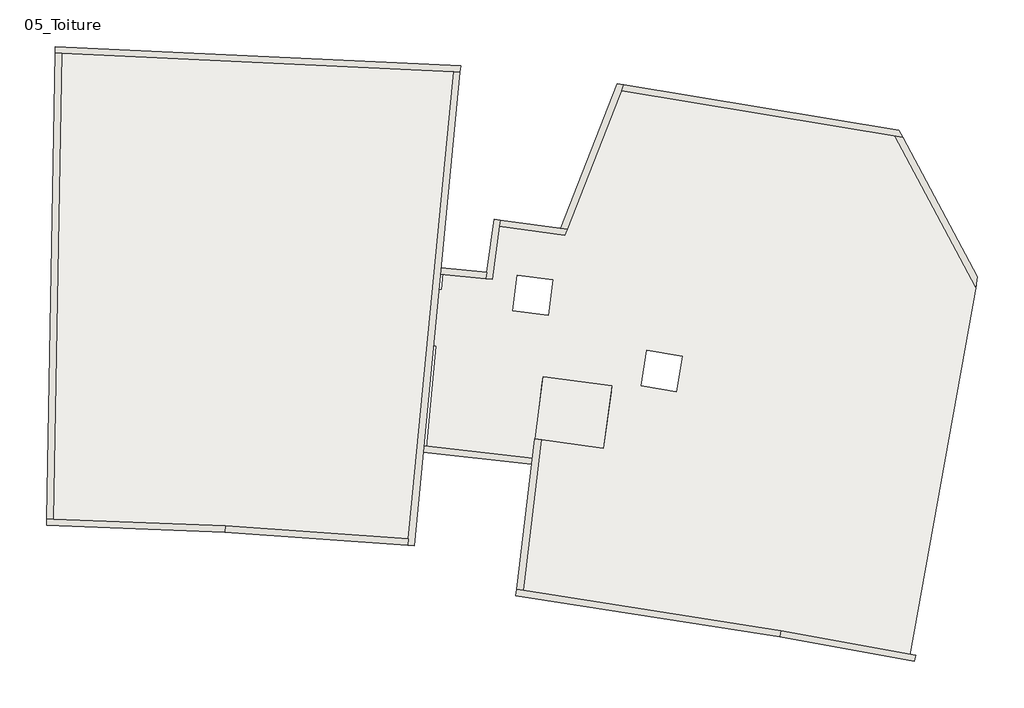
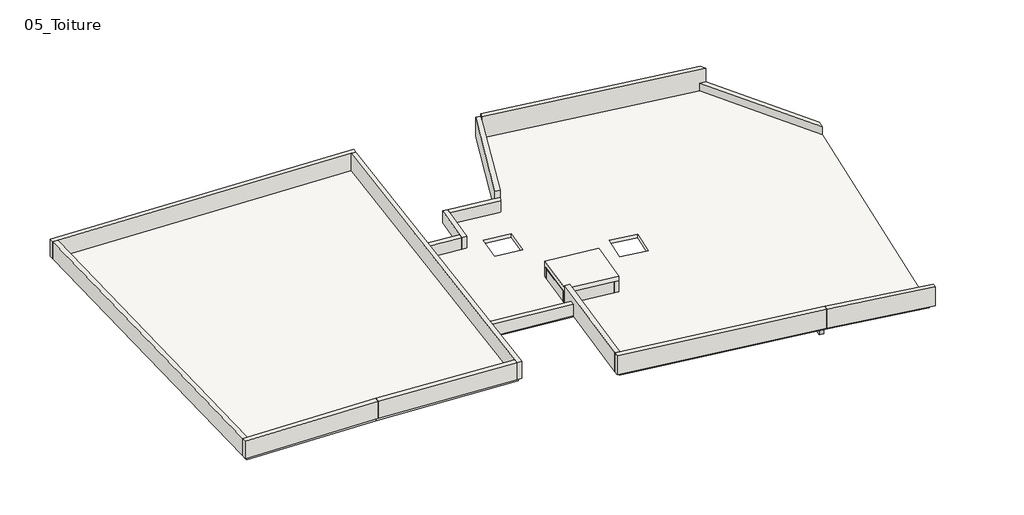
# One storey: 19 walls, 7 beams, 3 slabs.
"""IFC4 building model written with IfcOpenShell, lengths in millimetres."""

from ifc_helpers import new_model, si_unit, frame, origin, place, context, project, spatial, polyline, outline, extrude, faceted_brep, element, save

model = new_model("IFC4")

# Units and contexts
model_context = context("Model", 3, world=origin())
ifc_project = project(units=[si_unit("LENGTHUNIT", "METRE", prefix="MILLI")], contexts=[model_context])

# Site, building, storey
site = spatial("IfcSite", under=ifc_project)
building = spatial("IfcBuilding", under=site)
storey = spatial("IfcBuildingStorey", under=building, Name="05_Toiture", Elevation=32540.0)

# Beams
placement = place(None, origin())
element("IfcBeam", 1, ObjectType="Poutre_Rect_2013_JBE : 18x65ht", at=placement, inside=storey, context=model_context, shape_type="SweptSolid", body=[
    extrude(outline(polyline([(13612.6536437, 6080.9514615), (13584.8714068, 5903.1084202), (12695.6562007, 6042.0196048), (12723.4384376, 6219.862646), (13612.6536437, 6080.9514615)])), frame((0.0, 0.0, 31890.0), z_axis=(0.0, 0.0, 1.0), x_axis=(1.0, 0.0, 0.0)), (0.0, 0.0, 1.0), 490.0),
])
element("IfcBeam", 2, ObjectType="Poutre_Rect_2013_JBE : 18x65ht", at=placement, inside=storey, context=model_context, shape_type="SweptSolid", body=[
    extrude(outline(polyline([(16504.833415, 113.3973246), (16682.2953299, 83.2764225), (16525.2369714, -842.0569861), (16347.7750564, -811.9360839), (16504.833415, 113.3973246)])), frame((0.0, 0.0, 31890.0), z_axis=(0.0, 0.0, 1.0), x_axis=(1.0, 0.0, 0.0)), (0.0, 0.0, 1.0), 490.0),
])
element("IfcBeam", 3, ObjectType="Poutre_Rect_2013_JBE : 18x65ht", at=placement, inside=storey, context=model_context, shape_type="Brep", body=[
    faceted_brep([(17191.4038309, 3082.7422071, 31890.0), (17013.941916, 3112.8631093, 31890.0), (17013.941916, 3112.8631093, 32380.0), (17191.4038309, 3082.7422071, 32380.0), (16857.4805631, 2191.0470511, 32380.0), (16857.4805631, 2191.0470511, 31890.0), (16858.1977107, 2190.9253285, 31890.0), (16858.1977107, 2190.9253285, 32340.0), (17034.942478, 2160.9261489, 32340.0), (17034.942478, 2160.9261489, 32380.0), (17043.7539995, 2212.8405794, 32340.0), (17043.7539995, 2212.8405794, 31890.0), (16867.0092322, 2242.8397589, 31890.0), (16867.0092322, 2242.8397589, 32340.0)], [[[0, 1, 2, 3]], [[4, 5, 6, 7, 8, 9]], [[0, 3, 9, 8, 10, 11]], [[1, 0, 11, 12, 6, 5]], [[1, 5, 4, 2]], [[3, 2, 4, 9]], [[12, 13, 7, 6]], [[13, 12, 11, 10]], [[7, 13, 10, 8]]]),
])
element("IfcBeam", 4, ObjectType="Poutre_Rect_2013_JBE : 18x65ht", at=placement, inside=storey, context=model_context, shape_type="Brep", body=[
    faceted_brep([(8395.0423714, 8450.0283882, 32380.0), (8370.7462372, 8271.6756538, 32380.0), (8370.7462372, 8271.6756538, 32340.0), (8395.0423714, 8450.0283882, 32340.0), (7477.3559891, 8575.0403853, 31890.0), (7453.0598549, 8396.6876509, 31890.0), (7453.0598549, 8396.6876509, 32340.0), (7453.0598549, 8396.6876509, 32380.0), (7477.3559891, 8575.0403853, 32380.0), (7477.3559891, 8575.0403853, 32340.0), (8352.5369375, 8274.156219, 31890.0), (8352.5369375, 8274.156219, 32340.0), (8376.8330718, 8452.5089534, 31890.0), (8376.8330718, 8452.5089534, 32340.0)], [[[0, 1, 2, 3]], [[4, 5, 6, 7, 8, 9]], [[1, 7, 6, 5, 10, 11, 2]], [[5, 4, 12, 10]], [[8, 0, 3, 13, 12, 4, 9]], [[1, 0, 8, 7]], [[13, 11, 10, 12]], [[11, 13, 3, 2]]]),
])
element("IfcBeam", 5, ObjectType="Poutre_Rect_2013_JBE : 20x50ht", at=placement, inside=storey, context=model_context, shape_type="SweptSolid", body=[
    extrude(outline(polyline([(11919.3273248, 3795.9998695), (12116.9217401, 3765.0733915), (11554.0598413, 168.8550329), (11356.465426, 199.7815108), (11919.3273248, 3795.9998695)])), frame((0.0, 0.0, 32040.0), z_axis=(0.0, 0.0, 1.0), x_axis=(1.0, 0.0, 0.0)), (0.0, 0.0, 1.0), 340.0),
])
element("IfcBeam", 6, ObjectType="Poutre_Rect_2013_JBE : 20x50ht", at=placement, inside=storey, context=model_context, shape_type="Brep", body=[
    faceted_brep([(11995.3620915, 4287.4869447, 32040.0), (12192.9654707, 4256.6177926, 32040.0), (12192.9654707, 4256.6177926, 32380.0), (11995.3620915, 4287.4869447, 32380.0), (12477.4316033, 6077.5770742, 32040.0), (12477.4316033, 6077.5770742, 32340.0), (12491.323021, 6166.5005104, 32340.0), (12491.323021, 6166.5005104, 32380.0), (12280.0308482, 6109.7432882, 32040.0), (12293.9222659, 6198.6667244, 32380.0), (12293.9222659, 6198.6667244, 32340.0), (12280.0308482, 6109.7432882, 32340.0)], [[[0, 1, 2, 3]], [[2, 1, 4, 5, 6, 7]], [[1, 0, 8, 4]], [[0, 3, 9, 10, 11, 8]], [[9, 7, 6, 10]], [[3, 2, 7, 9]], [[11, 5, 4, 8]], [[5, 11, 10, 6]]]),
])
element("IfcBeam", 7, ObjectType="Poutre_Rect_2013_JBE : 20x60ht", at=placement, inside=storey, context=model_context, shape_type="Brep", body=[
    faceted_brep([(8995.3122642, 4951.0890921, 31940.0), (9211.2722782, 6536.4274246, 31940.0), (9211.2722782, 6536.4274246, 32380.0), (9211.2722782, 6536.4274246, 32540.0), (8995.3122642, 4951.0890921, 32540.0), (8995.3122642, 4951.0890921, 32380.0), (9013.1026309, 6563.423552, 31940.0), (8797.1426169, 4978.0852195, 31940.0), (8797.1426169, 4978.0852195, 32380.0), (9013.1026309, 6563.423552, 32380.0), (9105.8657953, 6550.7866712, 32540.0), (8911.89461, 4962.4528587, 32540.0), (9105.8657953, 6550.7866712, 32380.0), (8911.89461, 4962.4528587, 32380.0)], [[[0, 1, 2, 3, 4, 5]], [[6, 1, 0, 7]], [[6, 7, 8, 9]], [[4, 3, 10, 11]], [[1, 6, 9, 12, 10, 3, 2]], [[7, 0, 5, 4, 11, 13, 8]], [[13, 12, 9, 8]], [[12, 13, 11, 10]]]),
])

# Slabs
element("IfcSlab", 8, ObjectType="Dalle Béton - 20 cm", at=placement, inside=storey, context=model_context, shape_type="Brep", body=[
    faceted_brep([(-6131.7558603, 16913.0475781, 32340.0), (6293.3492324, 16310.5254411, 32340.0), (5630.8498129, 9483.9009054, 32340.0), (5461.3375455, 7737.1875208, 32340.0), (4868.8620342, 1632.1137002, 32340.0), (-989.3574264, 2051.1764357, 32340.0), (-6400.6245149, 2262.9052429, 32340.0), (-6131.7558603, 16913.0475781, 32540.0), (-6400.6245149, 2262.9052429, 32540.0), (-989.3574264, 2051.1764357, 32540.0), (4868.8620342, 1632.1137002, 32540.0), (5630.3902791, 9479.165709, 32540.0), (5630.8498129, 9483.9009054, 32540.0), (6293.3492324, 16310.5254411, 32540.0)], [[[0, 1, 2, 3, 4, 5, 6]], [[7, 8, 9, 10, 11, 12, 13]], [[1, 0, 7, 13]], [[4, 3, 2, 1, 13, 12, 11, 10]], [[5, 4, 10, 9]], [[0, 6, 8, 7]], [[6, 5, 9, 8]]]),
])
element("IfcSlab", 9, ObjectType="Dalle Béton - 16cm", at=placement, inside=storey, context=model_context, shape_type="Brep", body=[
    faceted_brep([(5618.5068655, 7700.2736905, 32380.0), (5445.6726505, 7716.1909119, 32380.0), (5608.1611372, 9480.5421985, 32380.0), (5630.3902791, 9479.165709, 32380.0), (5764.9739737, 9470.8319175, 32380.0), (5786.3138332, 9469.5104949, 32380.0), (5835.8039031, 9981.3682771, 32380.0), (7347.3343929, 9835.2227026, 32380.0), (7571.2608379, 11469.8085142, 32380.0), (9589.5784695, 11193.3135826, 32380.0), (11375.9056437, 15723.8760304, 32380.0), (19957.6989971, 14315.5085337, 32380.0), (22477.3801138, 9612.7956209, 32380.0), (20405.8907762, -1949.1198391, 32380.0), (16369.3755359, -1225.918021, 32380.0), (8278.3152724, 43.021616, 32380.0), (8774.1826975, 4141.385447, 32380.0), (5311.2130751, 4533.8115508, 32380.0), (10680.4511709, 4721.5270717, 32380.0), (10896.4175055, 6306.8645431, 32380.0), (9105.8657953, 6550.7866712, 32380.0), (8911.89461, 4962.4528587, 32380.0), (7997.5075875, 8814.1933432, 32380.0), (9107.2813466, 8663.1894931, 32380.0), (9258.2849465, 9772.9628839, 32380.0), (8148.5114332, 9923.9670703, 32380.0), (13299.1487, 7389.1943207, 32380.0), (12194.4071254, 7573.4391827, 32380.0), (12010.162262, 6468.6975998, 32380.0), (13114.9037051, 6284.4523056, 32380.0), (5618.5068655, 7700.2736905, 32540.0), (5311.2130751, 4533.8115508, 32540.0), (8774.1826975, 4141.385447, 32540.0), (8278.3152724, 43.021616, 32540.0), (16369.3755359, -1225.918021, 32540.0), (20405.8907762, -1949.1198391, 32540.0), (22477.3801138, 9612.7956209, 32540.0), (19957.6989971, 14315.5085337, 32540.0), (11375.9056437, 15723.8760304, 32540.0), (9589.5784695, 11193.3135826, 32540.0), (7571.2608379, 11469.8085142, 32540.0), (7347.3343929, 9835.2227026, 32540.0), (5835.8039031, 9981.3682771, 32540.0), (5786.3138332, 9469.5104949, 32540.0), (5764.9739737, 9470.8319175, 32540.0), (5630.3902791, 9479.165709, 32540.0), (5608.1611372, 9480.5421985, 32540.0), (5445.6726505, 7716.1909119, 32540.0), (7997.5075875, 8814.1933432, 32540.0), (8148.5114332, 9923.9670703, 32540.0), (9258.2849465, 9772.9628839, 32540.0), (9107.2813466, 8663.1894931, 32540.0), (13299.1487, 7389.1943207, 32540.0), (13114.9037051, 6284.4523056, 32540.0), (12010.162262, 6468.6975998, 32540.0), (12194.4071254, 7573.4391827, 32540.0), (10680.4511709, 4721.5270717, 32540.0), (8995.3122642, 4951.0890921, 32540.0), (8911.89461, 4962.4528587, 32540.0), (9105.8657953, 6550.7866712, 32540.0), (9211.2722782, 6536.4274246, 32540.0), (10896.4175055, 6306.8645431, 32540.0)], [[[0, 1, 2, 3, 4, 5, 6, 7, 8, 9, 10, 11, 12, 13, 14, 15, 16, 17], [18, 19, 20, 21], [22, 23, 24, 25], [26, 27, 28, 29]], [[30, 31, 32, 33, 34, 35, 36, 37, 38, 39, 40, 41, 42, 43, 44, 45, 46, 47], [48, 49, 50, 51], [52, 53, 54, 55], [56, 57, 58, 59, 60, 61]], [[7, 6, 42, 41]], [[8, 7, 41, 40]], [[9, 8, 40, 39]], [[10, 9, 39, 38]], [[11, 10, 38, 37]], [[12, 11, 37, 36]], [[13, 12, 36, 35]], [[15, 14, 34, 33]], [[16, 15, 33, 32]], [[17, 16, 32, 31]], [[0, 17, 31, 30]], [[19, 18, 56, 61]], [[20, 19, 61, 60, 59]], [[21, 20, 59, 58]], [[18, 21, 58, 57, 56]], [[23, 22, 48, 51]], [[24, 23, 51, 50]], [[25, 24, 50, 49]], [[22, 25, 49, 48]], [[27, 26, 52, 55]], [[28, 27, 55, 54]], [[29, 28, 54, 53]], [[26, 29, 53, 52]], [[1, 0, 30, 47]], [[2, 1, 47, 46]], [[5, 4, 3, 2, 46, 45, 44, 43]], [[6, 5, 43, 42]], [[14, 13, 35, 34]]]),
])
element("IfcSlab", 10, ObjectType="Dalle Béton - 25 cm", at=placement, inside=storey, context=model_context, shape_type="SweptSolid", body=[
    extrude(outline(polyline([(11099.0665343, 6460.9207339), (10834.5073639, 4518.8780585), (8711.6977933, 4808.0626095), (8949.0182707, 6753.8159377), (11099.0665343, 6460.9207339)])), frame((0.0, 0.0, 32990.0), z_axis=(0.0, 0.0, 1.0), x_axis=(1.0, 0.0, 0.0)), (0.0, 0.0, 1.0), 250.0),
])

# Walls
element("IfcWall", 11, ObjectType="Voile BA 18", at=placement, inside=storey, context=model_context, shape_type="Brep", body=[
    faceted_brep([(8927.4959479, 6575.0855242, 32540.0), (9105.8657953, 6550.7866712, 32540.0), (10896.4175055, 6306.8645431, 32540.0), (11074.7701881, 6282.5680285, 32540.0), (11074.7701881, 6282.5680285, 33040.0), (10896.4175055, 6306.8645431, 33040.0), (9105.8657953, 6550.7866712, 33040.0), (8927.4959479, 6575.0855242, 33040.0), (8949.3179776, 6753.7752993, 32540.0), (8949.3179776, 6753.7752993, 33040.0), (11099.0667028, 6460.920711, 33040.0), (11099.0667028, 6460.920711, 32540.0)], [[[0, 1, 2, 3, 4, 5, 6, 7]], [[8, 9, 10, 11]], [[3, 2, 1, 0, 8, 11]], [[7, 6, 5, 4, 10, 9]], [[4, 3, 11, 10]], [[0, 7, 9, 8]]]),
])
element("IfcWall", 12, ObjectType="Voile BA 18", at=placement, inside=storey, context=model_context, shape_type="Brep", body=[
    faceted_brep([(10896.4175055, 6306.8645431, 32540.0), (10680.4511709, 4721.5270717, 32540.0), (10656.1546562, 4543.1743891, 32540.0), (10656.1546562, 4543.1743891, 33040.0), (10680.4511709, 4721.5270717, 33040.0), (10896.4175055, 6306.8645431, 33040.0), (11074.7701881, 6282.5680285, 32540.0), (11074.7701881, 6282.5680285, 33040.0), (10834.5073388, 4518.8778745, 33040.0), (10834.5073388, 4518.8778745, 32540.0)], [[[0, 1, 2, 3, 4, 5]], [[6, 7, 8, 9]], [[2, 1, 0, 6, 9]], [[5, 4, 3, 8, 7]], [[0, 5, 7, 6]], [[3, 2, 9, 8]]]),
])
element("IfcWall", 13, ObjectType="Voile BA 18", at=placement, inside=storey, context=model_context, shape_type="Brep", body=[
    faceted_brep([(10680.4511709, 4721.5270717, 32540.0), (8911.89461, 4962.4528587, 32540.0), (8733.5247626, 4986.7517117, 32540.0), (8733.5247626, 4986.7517117, 33040.0), (8911.89461, 4962.4528587, 33040.0), (10680.4511709, 4721.5270717, 33040.0), (10656.1546562, 4543.1743891, 32540.0), (10656.1546562, 4543.1743891, 33040.0), (8711.702733, 4808.0619366, 33040.0), (8711.702733, 4808.0619366, 32540.0), (8892.1622415, 4783.4784146, 32540.0)], [[[0, 1, 2, 3, 4, 5]], [[6, 7, 8, 9, 10]], [[2, 1, 0, 6, 10, 9]], [[5, 4, 3, 8, 7]], [[0, 5, 7, 6]], [[3, 2, 9, 8]]]),
])
element("IfcWall", 14, ObjectType="Voile BA 18", at=placement, inside=storey, context=model_context, shape_type="SweptSolid", body=[
    extrude(outline(polyline([(9105.8657953, 6550.7866712), (8911.89461, 4962.4528587), (8733.5247626, 4986.7517117), (8927.4959479, 6575.0855242), (9105.8657953, 6550.7866712)])), frame((0.0, 0.0, 32540.0), z_axis=(0.0, 0.0, 1.0), x_axis=(1.0, 0.0, 0.0)), (0.0, 0.0, 1.0), 500.0),
])
element("IfcWall", 15, ObjectType="Voile BA 20", at=placement, inside=storey, context=model_context, shape_type="Brep", body=[
    faceted_brep([(-6292.646944, 16865.9622056, 32540.0), (-6092.7866828, 16856.5129953, 32540.0), (6153.5993944, 16277.5150672, 32540.0), (6353.6212346, 16268.0582176, 32540.0), (6353.6212346, 16268.0582176, 33320.0), (6153.5993944, 16277.5150672, 33320.0), (-6092.7866828, 16856.5129953, 33320.0), (-6292.646944, 16865.9622056, 33320.0), (-6288.9755034, 17066.0120297, 32540.0), (-6288.9755034, 17066.0120297, 33320.0), (6372.9634506, 16467.3671417, 33320.0), (6372.9634506, 16467.3671417, 32540.0)], [[[0, 1, 2, 3, 4, 5, 6, 7]], [[8, 9, 10, 11]], [[3, 2, 1, 0, 8, 11]], [[7, 6, 5, 4, 10, 9]], [[4, 3, 11, 10]], [[0, 7, 9, 8]]]),
])
element("IfcWall", 16, ObjectType="Voile BA 20", at=placement, inside=storey, context=model_context, shape_type="Brep", body=[
    faceted_brep([(6153.5993944, 16277.5150672, 32540.0), (4737.1220666, 1681.6398185, 32540.0), (4717.7973423, 1482.5111357, 32540.0), (4717.7973423, 1482.5111357, 33320.0), (4737.1220666, 1681.6398185, 33320.0), (6153.5993944, 16277.5150672, 33320.0), (6353.6212346, 16268.0582176, 32540.0), (6353.6212346, 16268.0582176, 33320.0), (4917.3516038, 1468.2361918, 33320.0), (4917.3516038, 1468.2361918, 32540.0), (5201.5003678, 4396.2039261, 32540.0), (5220.8214802, 4595.2953906, 32540.0), (5740.6500425, 9951.7897707, 32540.0), (5759.9685842, 10150.8547464, 32540.0)], [[[0, 1, 2, 3, 4, 5]], [[6, 7, 8, 9, 10, 11, 12, 13]], [[2, 1, 0, 6, 13, 12, 11, 10, 9]], [[5, 4, 3, 8, 7]], [[0, 5, 7, 6]], [[3, 2, 9, 8]]]),
])
element("IfcWall", 17, ObjectType="Voile BA 20", at=placement, inside=storey, context=model_context, shape_type="SweptSolid", body=[
    extrude(outline(polyline([(-987.1478639, 2091.1205886), (4737.1220666, 1681.6398185), (4717.7973423, 1482.5111357), (-998.1956765, 1891.399824), (-987.1478639, 2091.1205886)])), frame((0.0, 0.0, 32540.0), z_axis=(0.0, 0.0, 1.0), x_axis=(1.0, 0.0, 0.0)), (0.0, 0.0, 1.0), 780.0),
])
element("IfcWall", 18, ObjectType="Voile BA 20", at=placement, inside=storey, context=model_context, shape_type="Brep", body=[
    faceted_brep([(-987.1478639, 2091.1205886, 32540.0), (-6359.9123472, 2301.342889, 32540.0), (-6559.802487, 2309.1640703, 32540.0), (-6559.802487, 2309.1640703, 33320.0), (-6359.9123472, 2301.342889, 33320.0), (-987.1478639, 2091.1205886, 33320.0), (-998.1956765, 1891.399824, 32540.0), (-998.1956765, 1891.399824, 33320.0), (-6563.4731859, 2109.1546584, 33320.0), (-6563.4731859, 2109.1546584, 32540.0)], [[[0, 1, 2, 3, 4, 5]], [[6, 7, 8, 9]], [[2, 1, 0, 6, 9]], [[5, 4, 3, 8, 7]], [[0, 5, 7, 6]], [[3, 2, 9, 8]]]),
])
element("IfcWall", 19, ObjectType="Voile BA 20", at=placement, inside=storey, context=model_context, shape_type="SweptSolid", body=[
    extrude(outline(polyline([(-6092.7866828, 16856.5129953), (-6359.9123472, 2301.342889), (-6559.802487, 2309.1640703), (-6292.646944, 16865.9622056), (-6092.7866828, 16856.5129953)])), frame((0.0, 0.0, 32540.0), z_axis=(0.0, 0.0, 1.0), x_axis=(1.0, 0.0, 0.0)), (0.0, 0.0, 1.0), 780.0),
])
element("IfcWall", 20, ObjectType="Voile BA 20", at=placement, inside=storey, context=model_context, shape_type="Brep", body=[
    faceted_brep([(7361.6769034, 9792.3011549, 32540.0), (7588.3748042, 11447.2651549, 32540.0), (7615.5174524, 11645.4147868, 32540.0), (7615.5174524, 11645.4147868, 33070.0), (7588.3748042, 11447.2651549, 33070.0), (7361.6769034, 9792.3011549, 33070.0), (7162.4936806, 9811.898274, 32540.0), (7162.4936806, 9811.898274, 33070.0), (7189.6560012, 10010.1915207, 33070.0), (7417.3678084, 11672.5573469, 33070.0), (7417.3678084, 11672.5573469, 32540.0), (7189.6560012, 10010.1915207, 32540.0)], [[[0, 1, 2, 3, 4, 5]], [[6, 7, 8, 9, 10, 11]], [[2, 1, 0, 6, 11, 10]], [[5, 4, 3, 9, 8, 7]], [[3, 2, 10, 9]], [[0, 5, 7, 6]]]),
])
element("IfcWall", 21, ObjectType="Voile BA 20", at=placement, inside=storey, context=model_context, shape_type="Brep", body=[
    faceted_brep([(7588.3748042, 11447.2651549, 32540.0), (9622.8226926, 11168.5862594, 32540.0), (9622.8226926, 11168.5862594, 33070.0), (7588.3748042, 11447.2651549, 33070.0), (7615.5174524, 11645.4147868, 32540.0), (7615.5174524, 11645.4147868, 33070.0), (9698.337473, 11360.1098713, 33070.0), (9698.337473, 11360.1098713, 32540.0), (9494.3689629, 11388.0495003, 32540.0)], [[[0, 1, 2, 3]], [[4, 5, 6, 7, 8]], [[1, 0, 4, 8, 7]], [[3, 2, 6, 5]], [[0, 3, 5, 4]], [[2, 1, 7, 6]]]),
])
element("IfcWall", 22, ObjectType="Voile BA 20", at=placement, inside=storey, context=model_context, shape_type="Brep", body=[
    faceted_brep([(9698.337473, 11360.1098713, 32540.0), (11401.2801274, 15679.1812653, 32540.0), (11476.3308846, 15869.5280027, 32540.0), (11476.3308846, 15869.5280027, 33400.0), (9698.337473, 11360.1098713, 33400.0), (9698.337473, 11360.1098713, 33070.0), (9494.3689629, 11388.0495003, 32540.0), (9494.3689629, 11388.0495003, 33400.0), (11274.432648, 15902.7183425, 33400.0), (11274.432648, 15902.7183425, 32540.0)], [[[0, 1, 2, 3, 4, 5]], [[6, 7, 8, 9]], [[2, 1, 0, 6, 9]], [[4, 3, 8, 7]], [[0, 5, 4, 7, 6]], [[3, 2, 9, 8]]]),
])
element("IfcWall", 23, ObjectType="Voile BA 20", at=placement, inside=storey, context=model_context, shape_type="Brep", body=[
    faceted_brep([(11401.2801274, 15679.1812653, 32540.0), (19933.1527576, 14276.6145259, 32540.0), (20181.924837, 14235.7185281, 32540.0), (20181.924837, 14235.7185281, 32900.0), (20181.924837, 14235.7185281, 33500.0), (11401.2801274, 15679.1812653, 33500.0), (11476.3308846, 15869.5280027, 32540.0), (11476.3308846, 15869.5280027, 33400.0), (11476.3308846, 15869.5280027, 33500.0), (20062.9078233, 14457.9683438, 33500.0), (20062.9078233, 14457.9683438, 32540.0)], [[[0, 1, 2, 3, 4, 5]], [[6, 7, 8, 9, 10]], [[2, 1, 0, 6, 10]], [[5, 4, 9, 8]], [[0, 5, 8, 7, 6]], [[4, 3, 2, 10, 9]]]),
])
element("IfcWall", 24, ObjectType="Voile BA 20", at=placement, inside=storey, context=model_context, shape_type="SweptSolid", body=[
    extrude(outline(polyline([(22464.5454474, 9549.5461744), (19933.1527576, 14276.6145259), (20181.924837, 14235.7185281), (22521.3585944, 9867.1101651), (22464.5454474, 9549.5461744)])), frame((0.0, 0.0, 32540.0), z_axis=(0.0, 0.0, 1.0), x_axis=(1.0, 0.0, 0.0)), (0.0, 0.0, 1.0), 360.0),
])
element("IfcWall", 25, ObjectType="Voile BA 20", at=placement, inside=storey, context=model_context, shape_type="SweptSolid", body=[
    extrude(outline(polyline([(16376.7615793, -1182.2518396), (20586.1065764, -1945.4941438), (20550.4242184, -2142.2853258), (16341.0792213, -1379.0430217), (16376.7615793, -1182.2518396)])), frame((0.0, 0.0, 32540.0), z_axis=(0.0, 0.0, 1.0), x_axis=(1.0, 0.0, 0.0)), (0.0, 0.0, 1.0), 860.0),
])
element("IfcWall", 26, ObjectType="Voile BA 20", at=placement, inside=storey, context=model_context, shape_type="Brep", body=[
    faceted_brep([(8322.6666958, 76.5752623, 32540.0), (8892.1622415, 4783.4784146, 32540.0), (8892.1622415, 4783.4784146, 33400.0), (8322.6666958, 76.5752623, 33400.0), (8124.9471096, 107.47817, 32540.0), (8124.9471096, 107.47817, 33400.0), (8693.9703348, 4810.4775744, 33400.0), (8693.9703348, 4810.4775744, 32540.0), (8621.2001863, 4209.0294265, 32540.0), (8597.1764331, 4010.4721584, 32540.0), (8711.702733, 4808.0619366, 32540.0)], [[[0, 1, 2, 3]], [[4, 5, 6, 7, 8, 9]], [[1, 0, 4, 9, 8, 7, 10]], [[3, 2, 6, 5]], [[0, 3, 5, 4]], [[2, 1, 10, 7, 6]]]),
])
element("IfcWall", 27, ObjectType="Voile BA 20", at=placement, inside=storey, context=model_context, shape_type="SweptSolid", body=[
    extrude(outline(polyline([(5220.8214802, 4595.2953906), (8621.2001863, 4209.0294265), (8597.1764331, 4010.4721584), (5201.5003678, 4396.2039261), (5220.8214802, 4595.2953906)])), frame((0.0, 0.0, 32540.0), z_axis=(0.0, 0.0, 1.0), x_axis=(1.0, 0.0, 0.0)), (0.0, 0.0, 1.0), 530.0),
])
element("IfcWall", 28, ObjectType="Voile BA 20", at=placement, inside=storey, context=model_context, shape_type="SweptSolid", body=[
    extrude(outline(polyline([(7162.4936806, 9811.898274), (5740.6500425, 9951.7897707), (5759.9685842, 10150.8547464), (7189.6560012, 10010.1915207), (7162.4936806, 9811.898274)])), frame((0.0, 0.0, 32540.0), z_axis=(0.0, 0.0, 1.0), x_axis=(1.0, 0.0, 0.0)), (0.0, 0.0, 1.0), 530.0),
])
element("IfcWall", 29, ObjectType="Voile BA 20", at=placement, inside=storey, context=model_context, shape_type="Brep", body=[
    faceted_brep([(16376.0626273, -1182.1434921, 32540.0), (8322.6666958, 76.5752623, 32540.0), (8124.9471096, 107.47817, 32540.0), (8124.9471096, 107.47817, 33400.0), (8322.6666958, 76.5752623, 33400.0), (16376.0626273, -1182.1434921, 33400.0), (16345.178254, -1379.7444928, 32540.0), (16345.178254, -1379.7444928, 33400.0), (8100.909579, -91.1929692, 33400.0), (8100.909579, -91.1929692, 32540.0)], [[[0, 1, 2, 3, 4, 5]], [[6, 7, 8, 9]], [[2, 1, 0, 6, 9]], [[5, 4, 3, 8, 7]], [[0, 5, 7, 6]], [[3, 2, 9, 8]]]),
])

save(model, "model.ifc")
